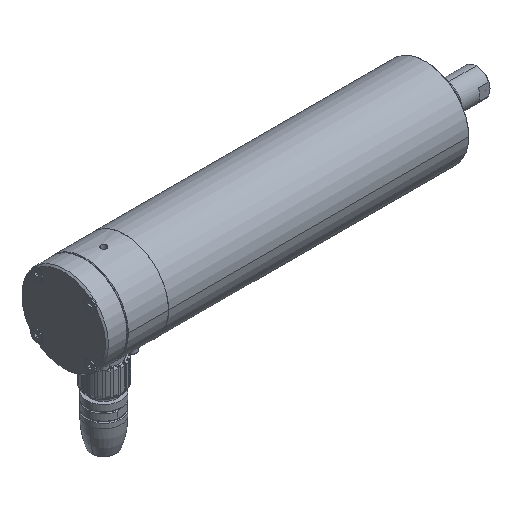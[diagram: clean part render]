
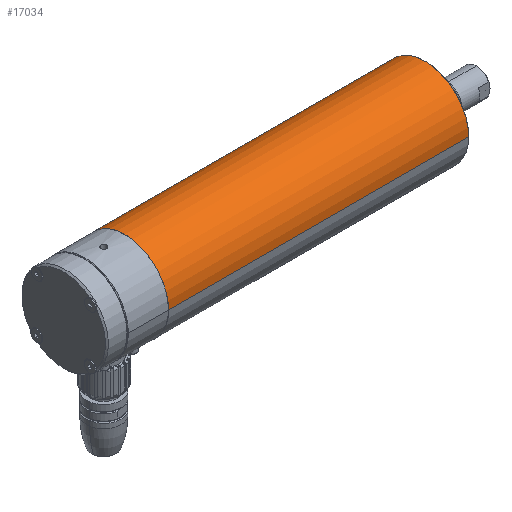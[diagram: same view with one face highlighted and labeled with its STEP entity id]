
A CAD part, isometric view. The second image highlights one B-rep face of the part: STEP entity #17034.
In plain terms, the highlighted cylindrical face has radius 30 mm (diameter 60 mm), a partial arc.
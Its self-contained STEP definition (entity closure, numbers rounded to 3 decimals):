
#115 = DIRECTION ( 'NONE',  ( -1., 0., 0. ) ) ;
#199 = CARTESIAN_POINT ( 'NONE',  ( -206.046, 0., 30. ) ) ;
#751 = DIRECTION ( 'NONE',  ( 0., 0., -1. ) ) ;
#1507 = CYLINDRICAL_SURFACE ( 'NONE', #5119, 30. ) ;
#1841 = AXIS2_PLACEMENT_3D ( 'NONE', #18912, #3962, #751 ) ;
#2729 = CARTESIAN_POINT ( 'NONE',  ( 0., 0., 30. ) ) ;
#3962 = DIRECTION ( 'NONE',  ( -1., 0., 0. ) ) ;
#4592 = FACE_OUTER_BOUND ( 'NONE', #12933, .T. ) ;
#4622 = CARTESIAN_POINT ( 'NONE',  ( 0., 0., -30. ) ) ;
#5119 = AXIS2_PLACEMENT_3D ( 'NONE', #14918, #115, #6303 ) ;
#5329 = CIRCLE ( 'NONE', #6820, 30. ) ;
#6186 = VECTOR ( 'NONE', #17286, 1000. ) ;
#6303 = DIRECTION ( 'NONE',  ( 0., 0., 1. ) ) ;
#6820 = AXIS2_PLACEMENT_3D ( 'NONE', #7070, #14682, #8565 ) ;
#6913 = VERTEX_POINT ( 'NONE', #199 ) ;
#6950 = ORIENTED_EDGE ( 'NONE', *, *, #15464, .T. ) ;
#7070 = CARTESIAN_POINT ( 'NONE',  ( 0., 0., 0. ) ) ;
#7995 = CARTESIAN_POINT ( 'NONE',  ( 0., 0., 30. ) ) ;
#8565 = DIRECTION ( 'NONE',  ( 0., 0., 1. ) ) ;
#8733 = EDGE_CURVE ( 'NONE', #17811, #10551, #14946, .T. ) ;
#8933 = CARTESIAN_POINT ( 'NONE',  ( -206.046, 0., -30. ) ) ;
#10039 = CIRCLE ( 'NONE', #1841, 30. ) ;
#10551 = VERTEX_POINT ( 'NONE', #8933 ) ;
#10786 = ORIENTED_EDGE ( 'NONE', *, *, #15489, .F. ) ;
#11105 = CARTESIAN_POINT ( 'NONE',  ( 0., 0., -30. ) ) ;
#12933 = EDGE_LOOP ( 'NONE', ( #13391, #6950, #14242, #10786 ) ) ;
#13391 = ORIENTED_EDGE ( 'NONE', *, *, #8733, .F. ) ;
#14148 = DIRECTION ( 'NONE',  ( -1., 0., 0. ) ) ;
#14242 = ORIENTED_EDGE ( 'NONE', *, *, #18755, .T. ) ;
#14682 = DIRECTION ( 'NONE',  ( -1., 0., 0. ) ) ;
#14918 = CARTESIAN_POINT ( 'NONE',  ( 0., 0., 0. ) ) ;
#14946 = LINE ( 'NONE', #11105, #6186 ) ;
#15464 = EDGE_CURVE ( 'NONE', #17811, #19683, #5329, .T. ) ;
#15489 = EDGE_CURVE ( 'NONE', #10551, #6913, #10039, .T. ) ;
#17034 = ADVANCED_FACE ( 'NONE', ( #4592 ), #1507, .T. ) ;
#17286 = DIRECTION ( 'NONE',  ( -1., 0., 0. ) ) ;
#17290 = LINE ( 'NONE', #7995, #18703 ) ;
#17811 = VERTEX_POINT ( 'NONE', #4622 ) ;
#18703 = VECTOR ( 'NONE', #14148, 1000. ) ;
#18755 = EDGE_CURVE ( 'NONE', #19683, #6913, #17290, .T. ) ;
#18912 = CARTESIAN_POINT ( 'NONE',  ( -206.046, 0., 0. ) ) ;
#19683 = VERTEX_POINT ( 'NONE', #2729 ) ;
